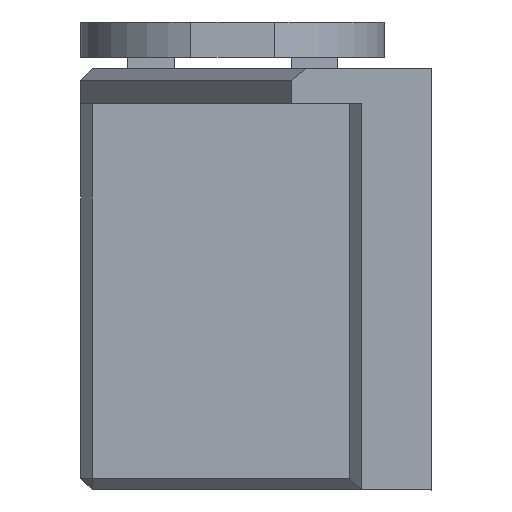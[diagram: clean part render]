
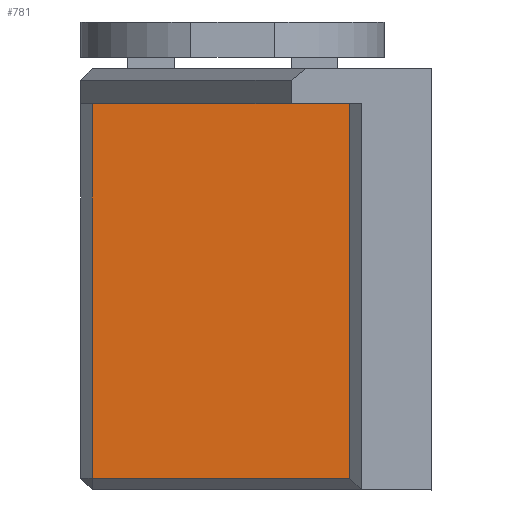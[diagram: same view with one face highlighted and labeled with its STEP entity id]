
A CAD part, left-side view. The second image highlights one B-rep face of the part: STEP entity #781.
In plain terms, the highlighted planar face has unit normal (-1, 0, 0).
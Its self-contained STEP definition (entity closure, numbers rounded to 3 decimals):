
#12 = DIRECTION ( 'NONE',  ( 0., 0., -1. ) ) ;
#125 = EDGE_CURVE ( 'NONE', #1725, #1256, #189, .T. ) ;
#189 = LINE ( 'NONE', #338, #1802 ) ;
#200 = DIRECTION ( 'NONE',  ( 1., 0., 0. ) ) ;
#220 = ORIENTED_EDGE ( 'NONE', *, *, #946, .T. ) ;
#333 = LINE ( 'NONE', #2011, #1941 ) ;
#338 = CARTESIAN_POINT ( 'NONE',  ( -35.804, 11.814, 56.25 ) ) ;
#348 = PLANE ( 'NONE',  #1448 ) ;
#369 = DIRECTION ( 'NONE',  ( 0., 0., 1. ) ) ;
#407 = CARTESIAN_POINT ( 'NONE',  ( -35.804, 0.314, 72.25 ) ) ;
#421 = ORIENTED_EDGE ( 'NONE', *, *, #612, .T. ) ;
#481 = CARTESIAN_POINT ( 'NONE',  ( -35.804, 0.314, 56.25 ) ) ;
#515 = VERTEX_POINT ( 'NONE', #407 ) ;
#597 = VECTOR ( 'NONE', #369, 1000. ) ;
#601 = CARTESIAN_POINT ( 'NONE',  ( -35.804, 11.814, 72.25 ) ) ;
#611 = DIRECTION ( 'NONE',  ( 0., -1., 0. ) ) ;
#612 = EDGE_CURVE ( 'NONE', #1466, #1725, #333, .T. ) ;
#781 = ADVANCED_FACE ( 'NONE', ( #1752 ), #348, .F. ) ;
#826 = DIRECTION ( 'NONE',  ( 0., 0., -1. ) ) ;
#853 = VECTOR ( 'NONE', #611, 1000. ) ;
#946 = EDGE_CURVE ( 'NONE', #1256, #515, #1774, .T. ) ;
#976 = CARTESIAN_POINT ( 'NONE',  ( -35.804, 11.314, 72.25 ) ) ;
#1040 = EDGE_LOOP ( 'NONE', ( #421, #1821, #220, #1997 ) ) ;
#1256 = VERTEX_POINT ( 'NONE', #481 ) ;
#1448 = AXIS2_PLACEMENT_3D ( 'NONE', #1601, #200, #826 ) ;
#1466 = VERTEX_POINT ( 'NONE', #976 ) ;
#1470 = CARTESIAN_POINT ( 'NONE',  ( -35.804, 0.314, 55.75 ) ) ;
#1560 = LINE ( 'NONE', #601, #853 ) ;
#1601 = CARTESIAN_POINT ( 'NONE',  ( -35.804, 11.814, 55.75 ) ) ;
#1610 = DIRECTION ( 'NONE',  ( 0., -1., 0. ) ) ;
#1725 = VERTEX_POINT ( 'NONE', #1953 ) ;
#1752 = FACE_OUTER_BOUND ( 'NONE', #1040, .T. ) ;
#1774 = LINE ( 'NONE', #1470, #597 ) ;
#1802 = VECTOR ( 'NONE', #1610, 1000. ) ;
#1808 = EDGE_CURVE ( 'NONE', #1466, #515, #1560, .T. ) ;
#1821 = ORIENTED_EDGE ( 'NONE', *, *, #125, .T. ) ;
#1941 = VECTOR ( 'NONE', #12, 1000. ) ;
#1953 = CARTESIAN_POINT ( 'NONE',  ( -35.804, 11.314, 56.25 ) ) ;
#1997 = ORIENTED_EDGE ( 'NONE', *, *, #1808, .F. ) ;
#2011 = CARTESIAN_POINT ( 'NONE',  ( -35.804, 11.314, 55.75 ) ) ;
